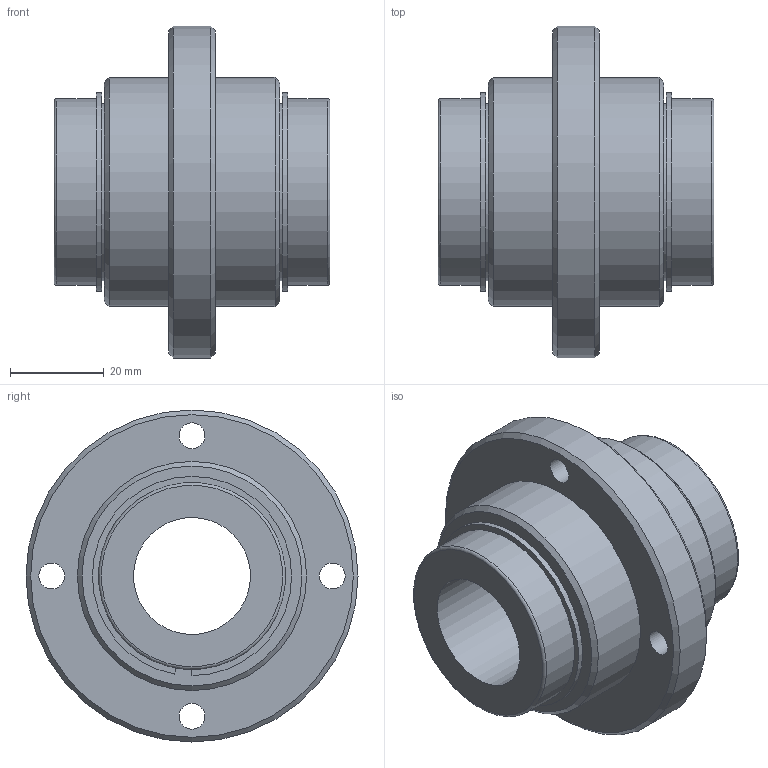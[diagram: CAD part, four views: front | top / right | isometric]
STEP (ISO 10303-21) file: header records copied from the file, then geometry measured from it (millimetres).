
FILE_DESCRIPTION(('STEP AP203'),'1');
FILE_NAME('//192.168.1.1/share/s-4 技術開発/s-4-4_CAD/s-4-4-3_見直し済み/008修正済み/PNCD/PNCD_TOP/PNCD-25VUU.step','2022-02-07T00:27:50',(' '),(' '),'Spatial InterOp 3D',' ',' ');
FILE_SCHEMA(('CONFIG_CONTROL_DESIGN'));
Length unit declared in the file: millimetre
Products named in the file (4): 1; 2; 3; 4
Bounding box: 59 x 71 x 71 mm (x, y, z)
Volume: 88377.4 mm3; surface area: 32350.5 mm2
Topology: 4 solids, 4 shells, 42 faces, 78 edges, 50 vertices
Faces by surface type: plane 18, cylinder 18, cone 4, torus 2
Full cylindrical faces by diameter (mm): 5.5 x4, 25 x1, 38 x2, 40 x4, 49 x2, 71 x1
Entity records: 1156 total; most frequent: DIRECTION 192, CARTESIAN_POINT 154, ORIENTED_EDGE 116, AXIS2_PLACEMENT_3D 88, EDGE_LOOP 80, FACE_OUTER_BOUND 58, EDGE_CURVE 58, VERTEX_POINT 50
